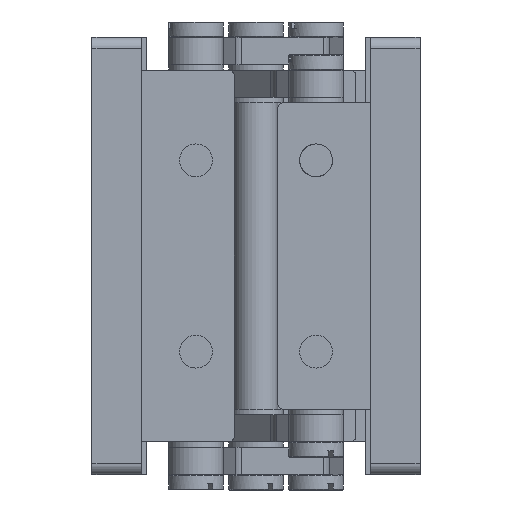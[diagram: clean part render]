
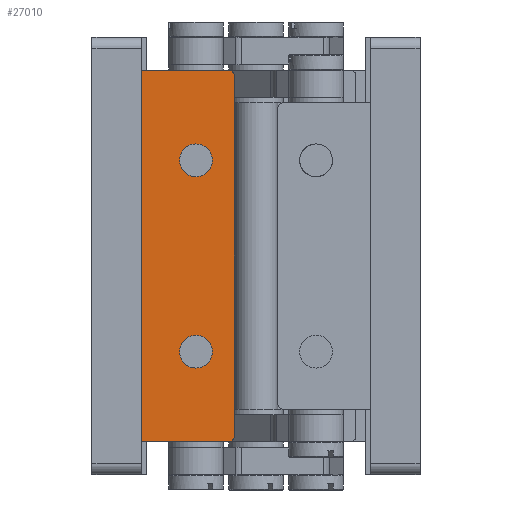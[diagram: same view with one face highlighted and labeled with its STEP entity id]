
A CAD part, left-side view. The second image highlights one B-rep face of the part: STEP entity #27010.
In plain terms, the highlighted planar face has unit normal (-1, 0, 0).
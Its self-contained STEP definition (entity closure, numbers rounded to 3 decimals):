
#304 = EDGE_LOOP ( 'NONE', ( #42871 ) ) ;
#570 = AXIS2_PLACEMENT_3D ( 'NONE', #10939, #18684, #18430 ) ;
#1446 = FACE_BOUND ( 'NONE', #304, .T. ) ;
#1734 = CIRCLE ( 'NONE', #8142, 1. ) ;
#1935 = DIRECTION ( 'NONE',  ( -1., 0., 0. ) ) ;
#2583 = CARTESIAN_POINT ( 'NONE',  ( -72.99, 34., 170.394 ) ) ;
#3086 = LINE ( 'NONE', #40176, #17061 ) ;
#3286 = VERTEX_POINT ( 'NONE', #38595 ) ;
#4852 = CIRCLE ( 'NONE', #32826, 3. ) ;
#5381 = VERTEX_POINT ( 'NONE', #11002 ) ;
#5498 = ORIENTED_EDGE ( 'NONE', *, *, #37430, .T. ) ;
#5791 = EDGE_LOOP ( 'NONE', ( #6127 ) ) ;
#5952 = DIRECTION ( 'NONE',  ( 0., 0., 1. ) ) ;
#6127 = ORIENTED_EDGE ( 'NONE', *, *, #22165, .F. ) ;
#6439 = ORIENTED_EDGE ( 'NONE', *, *, #22662, .F. ) ;
#6569 = AXIS2_PLACEMENT_3D ( 'NONE', #16969, #29208, #5952 ) ;
#6787 = VECTOR ( 'NONE', #18535, 1000. ) ;
#8142 = AXIS2_PLACEMENT_3D ( 'NONE', #22308, #11298, #22565 ) ;
#9536 = ORIENTED_EDGE ( 'NONE', *, *, #30096, .F. ) ;
#9712 = EDGE_LOOP ( 'NONE', ( #6439, #27810, #9536, #22844, #5498, #43466 ) ) ;
#10939 = CARTESIAN_POINT ( 'NONE',  ( -72.99, 35., 104.394 ) ) ;
#11002 = CARTESIAN_POINT ( 'NONE',  ( -72.99, 35., 103.394 ) ) ;
#11283 = CARTESIAN_POINT ( 'NONE',  ( -72.99, 41., 154.894 ) ) ;
#11298 = DIRECTION ( 'NONE',  ( -1., 0., 0. ) ) ;
#12027 = CARTESIAN_POINT ( 'NONE',  ( -72.99, 51., 171.394 ) ) ;
#12689 = VECTOR ( 'NONE', #14828, 1000. ) ;
#12828 = LINE ( 'NONE', #24363, #21860 ) ;
#13444 = DIRECTION ( 'NONE',  ( 0., 0., -1. ) ) ;
#14828 = DIRECTION ( 'NONE',  ( 0., 0., -1. ) ) ;
#15486 = CARTESIAN_POINT ( 'NONE',  ( -72.99, 35., 171.394 ) ) ;
#16969 = CARTESIAN_POINT ( 'NONE',  ( -72.99, 34., 171.394 ) ) ;
#17061 = VECTOR ( 'NONE', #33415, 1000. ) ;
#18027 = VERTEX_POINT ( 'NONE', #19640 ) ;
#18430 = DIRECTION ( 'NONE',  ( 0., 0., 1. ) ) ;
#18535 = DIRECTION ( 'NONE',  ( 0., 0., -1. ) ) ;
#18684 = DIRECTION ( 'NONE',  ( -1., 0., 0. ) ) ;
#19640 = CARTESIAN_POINT ( 'NONE',  ( -72.99, 51., 103.394 ) ) ;
#21860 = VECTOR ( 'NONE', #24607, 1000. ) ;
#22165 = EDGE_CURVE ( 'NONE', #24605, #24605, #4852, .T. ) ;
#22308 = CARTESIAN_POINT ( 'NONE',  ( -72.99, 35., 170.394 ) ) ;
#22337 = LINE ( 'NONE', #37633, #12689 ) ;
#22565 = DIRECTION ( 'NONE',  ( 0., 0., 1. ) ) ;
#22662 = EDGE_CURVE ( 'NONE', #5381, #18027, #3086, .T. ) ;
#22844 = ORIENTED_EDGE ( 'NONE', *, *, #32305, .T. ) ;
#24245 = PLANE ( 'NONE',  #6569 ) ;
#24363 = CARTESIAN_POINT ( 'NONE',  ( -72.99, 34., 171.394 ) ) ;
#24605 = VERTEX_POINT ( 'NONE', #42896 ) ;
#24607 = DIRECTION ( 'NONE',  ( 0., 1., 0. ) ) ;
#24727 = VERTEX_POINT ( 'NONE', #12027 ) ;
#25553 = LINE ( 'NONE', #48352, #6787 ) ;
#26528 = CIRCLE ( 'NONE', #35372, 3. ) ;
#26953 = EDGE_CURVE ( 'NONE', #3286, #3286, #26528, .T. ) ;
#27010 = ADVANCED_FACE ( 'NONE', ( #47020, #1446, #27992 ), #24245, .F. ) ;
#27810 = ORIENTED_EDGE ( 'NONE', *, *, #32879, .T. ) ;
#27992 = FACE_OUTER_BOUND ( 'NONE', #9712, .T. ) ;
#29208 = DIRECTION ( 'NONE',  ( 1., 0., 0. ) ) ;
#30096 = EDGE_CURVE ( 'NONE', #30497, #37615, #25553, .T. ) ;
#30168 = CIRCLE ( 'NONE', #570, 1. ) ;
#30497 = VERTEX_POINT ( 'NONE', #2583 ) ;
#32305 = EDGE_CURVE ( 'NONE', #30497, #32742, #1734, .T. ) ;
#32742 = VERTEX_POINT ( 'NONE', #15486 ) ;
#32826 = AXIS2_PLACEMENT_3D ( 'NONE', #11283, #44825, #45084 ) ;
#32879 = EDGE_CURVE ( 'NONE', #5381, #37615, #30168, .T. ) ;
#33415 = DIRECTION ( 'NONE',  ( 0., 1., 0. ) ) ;
#35372 = AXIS2_PLACEMENT_3D ( 'NONE', #39025, #1935, #13444 ) ;
#37430 = EDGE_CURVE ( 'NONE', #32742, #24727, #12828, .T. ) ;
#37615 = VERTEX_POINT ( 'NONE', #49138 ) ;
#37633 = CARTESIAN_POINT ( 'NONE',  ( -72.99, 51., 171.394 ) ) ;
#38595 = CARTESIAN_POINT ( 'NONE',  ( -72.99, 41., 116.894 ) ) ;
#39025 = CARTESIAN_POINT ( 'NONE',  ( -72.99, 41., 119.894 ) ) ;
#40176 = CARTESIAN_POINT ( 'NONE',  ( -72.99, 34., 103.394 ) ) ;
#42871 = ORIENTED_EDGE ( 'NONE', *, *, #26953, .F. ) ;
#42896 = CARTESIAN_POINT ( 'NONE',  ( -72.99, 41., 151.894 ) ) ;
#43466 = ORIENTED_EDGE ( 'NONE', *, *, #47278, .T. ) ;
#44825 = DIRECTION ( 'NONE',  ( -1., 0., 0. ) ) ;
#45084 = DIRECTION ( 'NONE',  ( 0., 0., -1. ) ) ;
#47020 = FACE_BOUND ( 'NONE', #5791, .T. ) ;
#47278 = EDGE_CURVE ( 'NONE', #24727, #18027, #22337, .T. ) ;
#48352 = CARTESIAN_POINT ( 'NONE',  ( -72.99, 34., 171.394 ) ) ;
#49138 = CARTESIAN_POINT ( 'NONE',  ( -72.99, 34., 104.394 ) ) ;
